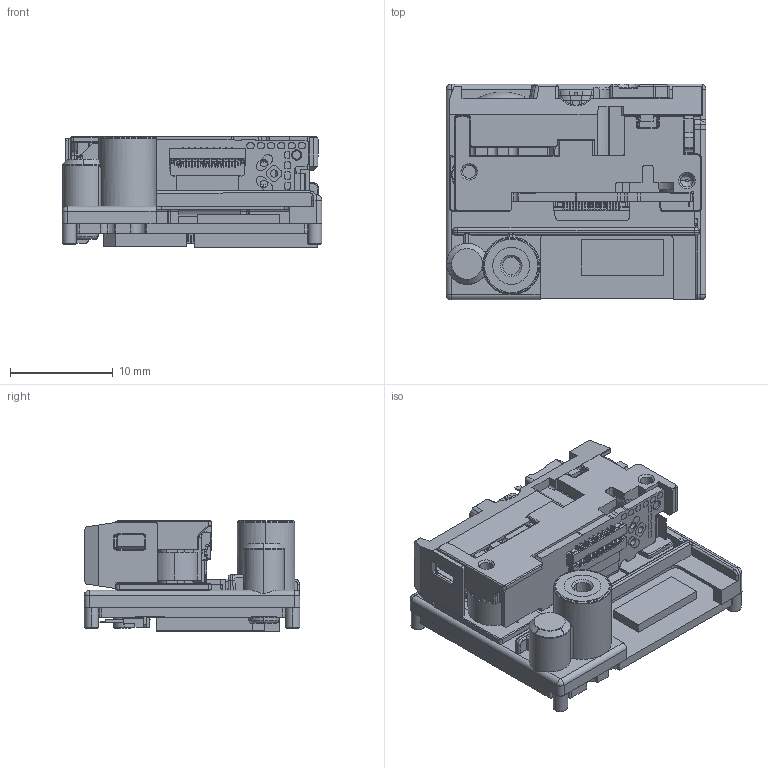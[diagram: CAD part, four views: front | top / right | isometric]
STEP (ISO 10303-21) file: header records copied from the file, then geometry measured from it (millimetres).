
FILE_DESCRIPTION (( 'STEP AP214' ), '1' );
FILE_NAME ('MDI-5300.STEP', '2023-10-31T09:09:31', ( '' ), ( '' ), 'SwSTEP 2.0', 'SolidWorks 2018', '' );
FILE_SCHEMA (( 'AUTOMOTIVE_DESIGN' ));
Length unit declared in the file: millimetre
Products named in the file (22): R-52_HOLDER_SISAKU_BOSS.stp; R-52_MAIN_PCB_ASM.stp; R-52_SUB_PCB_C.stp; R-52_M16_4_NABE.stp; R-52_D20_6_NABE1.stp; MOREX5042811900.stp; R-52_LED_PCB_B_W.stp; R-52_HOLDER.stp; R-52_C-MOS_PCB_ES.stp; R-52_MAIN_FPC.stp; R-52_CAMERA_BODY5_CAVI.stp; 2682_MELAYOUT_V5_20190315.stp; R-52_LED_PCB_ASM.stp; R-52_MASK_LENS191120.stp; 5035661900.stp; MDI-5300; R-52_ROE_LENS.stp; R-40_MAIN_PCB.stp; R-52_COVER5_CAVI.stp; MDI-5300_230124.stp; R-52_C-MOS_PCB_ASM.stp; R-52_TERMINAL.stp
Assembly tree (21 placements, depth 4):
  MDI-5300
    MDI-5300_230124.stp
      R-52_LED_PCB_ASM.stp
        R-52_LED_PCB_B_W.stp
      R-52_C-MOS_PCB_ASM.stp
        R-52_C-MOS_PCB_ES.stp
        R-52_SUB_PCB_C.stp
        5035661900.stp
        2682_MELAYOUT_V5_20190315.stp
        R-52_COVER5_CAVI.stp
      R-52_MAIN_PCB_ASM.stp
        R-40_MAIN_PCB.stp
        MOREX5042811900.stp
        R-52_MAIN_FPC.stp
        R-52_HOLDER.stp
        R-52_TERMINAL.stp
        R-52_M16_4_NABE.stp
        R-52_HOLDER_SISAKU_BOSS.stp
        R-52_D20_6_NABE1.stp
      R-52_CAMERA_BODY5_CAVI.stp
      R-52_ROE_LENS.stp
      R-52_MASK_LENS191120.stp
Bounding box: 25.3 x 21 x 10.8 mm (x, y, z)
Volume: 2842 mm3; surface area: 7522.3 mm2
Topology: 17 solids, 17 shells, 5397 faces, 14829 edges, 9543 vertices
Faces by surface type: plane 3606, cylinder 1188, cone 285, bspline 161, torus 95, sphere 62
Entity records: 234656 total; most frequent: CARTESIAN_POINT 97075, ORIENTED_EDGE 29578, DIRECTION 27100, EDGE_CURVE 14789, VECTOR 11124, LINE 11124, VERTEX_POINT 9542, AXIS2_PLACEMENT_3D 7988
